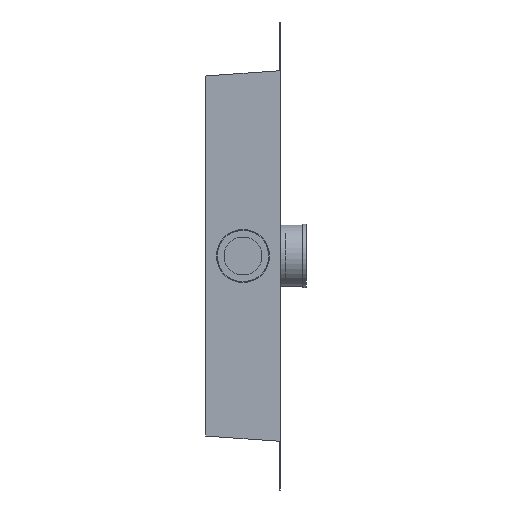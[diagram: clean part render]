
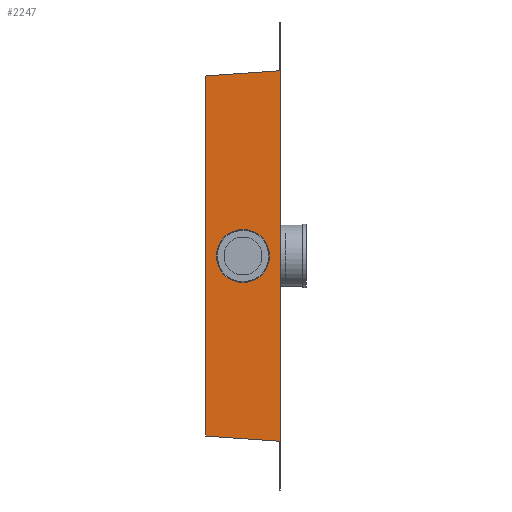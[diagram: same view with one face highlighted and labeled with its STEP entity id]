
A CAD part, front view. The second image highlights one B-rep face of the part: STEP entity #2247.
In plain terms, the highlighted planar face has unit normal (0, -1, 0).
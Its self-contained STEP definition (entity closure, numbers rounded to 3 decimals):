
#129=LINE('',#3386,#331);
#132=LINE('',#3391,#334);
#133=LINE('',#3393,#335);
#134=LINE('',#3394,#336);
#331=VECTOR('',#2795,10.);
#334=VECTOR('',#2800,10.);
#335=VECTOR('',#2801,10.);
#336=VECTOR('',#2802,10.);
#538=PLANE('',#2555);
#642=FACE_BOUND('',#874,.T.);
#713=FACE_OUTER_BOUND('',#873,.T.);
#873=EDGE_LOOP('',(#1657,#1658,#1659,#1660));
#874=EDGE_LOOP('',(#1661));
#1070=CIRCLE('',#2556,25.);
#1132=VERTEX_POINT('',#3384);
#1133=VERTEX_POINT('',#3385);
#1134=VERTEX_POINT('',#3390);
#1135=VERTEX_POINT('',#3392);
#1136=VERTEX_POINT('',#3395);
#1346=EDGE_CURVE('',#1132,#1133,#129,.T.);
#1349=EDGE_CURVE('',#1134,#1133,#132,.T.);
#1350=EDGE_CURVE('',#1134,#1135,#133,.T.);
#1351=EDGE_CURVE('',#1132,#1135,#134,.T.);
#1352=EDGE_CURVE('',#1136,#1136,#1070,.T.);
#1657=ORIENTED_EDGE('',*,*,#1346,.T.);
#1658=ORIENTED_EDGE('',*,*,#1349,.F.);
#1659=ORIENTED_EDGE('',*,*,#1350,.T.);
#1660=ORIENTED_EDGE('',*,*,#1351,.F.);
#1661=ORIENTED_EDGE('',*,*,#1352,.T.);
#2247=ADVANCED_FACE('',(#713,#642),#538,.T.);
#2555=AXIS2_PLACEMENT_3D('',#3389,#2798,#2799);
#2556=AXIS2_PLACEMENT_3D('',#3396,#2803,#2804);
#2795=DIRECTION('',(-0.997,0.,-0.071));
#2798=DIRECTION('center_axis',(0.,-1.,0.));
#2799=DIRECTION('ref_axis',(0.,0.,-1.));
#2800=DIRECTION('',(0.,0.,1.));
#2801=DIRECTION('',(0.997,0.,-0.071));
#2802=DIRECTION('',(0.,0.,-1.));
#2803=DIRECTION('center_axis',(0.,1.,0.));
#2804=DIRECTION('ref_axis',(-1.,0.,0.));
#3384=CARTESIAN_POINT('',(70.,0.,0.));
#3385=CARTESIAN_POINT('',(0.,0.,-5.));
#3386=CARTESIAN_POINT('',(35.178,0.,-2.487));
#3389=CARTESIAN_POINT('Origin',(0.,0.,0.));
#3390=CARTESIAN_POINT('',(0.,0.,-345.));
#3391=CARTESIAN_POINT('',(0.,0.,-350.));
#3392=CARTESIAN_POINT('',(70.,0.,-350.));
#3393=CARTESIAN_POINT('',(22.741,0.,-346.624));
#3394=CARTESIAN_POINT('',(70.,0.,-350.));
#3395=CARTESIAN_POINT('',(60.,0.,-175.));
#3396=CARTESIAN_POINT('Origin',(35.,0.,-175.));
